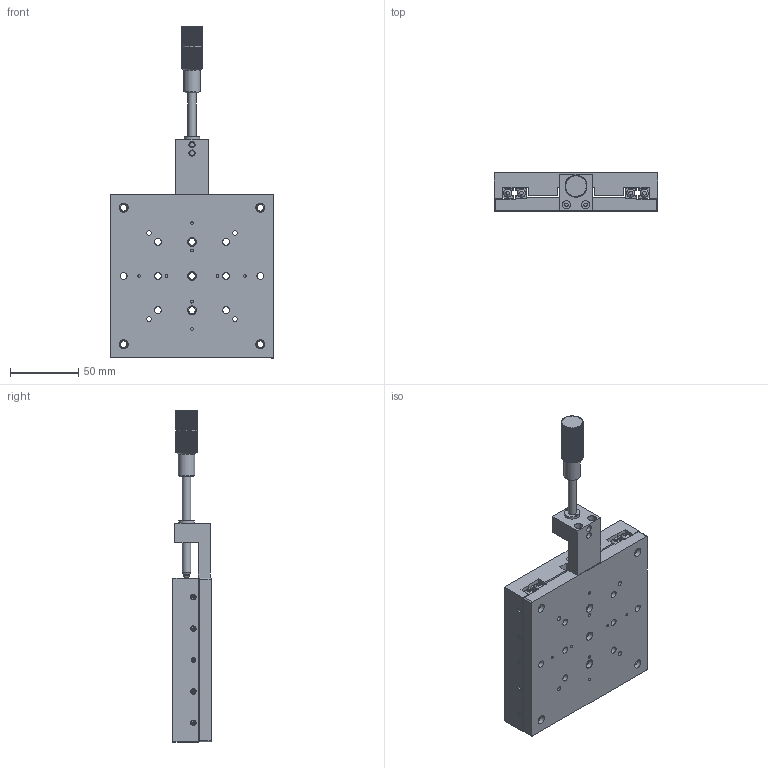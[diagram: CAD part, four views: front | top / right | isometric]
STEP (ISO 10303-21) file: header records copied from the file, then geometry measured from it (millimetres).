
FILE_DESCRIPTION (( 'STEP AP203' ), '1' );
FILE_NAME ('TCS120X-2A.step', '2017-01-10T09:16:19', ( '¦K¬P' ), ( '' ), 'SwSTEP 2.0', 'SolidWorks 2012', '' );
FILE_SCHEMA (( 'CONFIG_CONTROL_DESIGN' ));
Length unit declared in the file: millimetre
Products named in the file (1): TCS120X-2A
Bounding box: 120 x 28 x 243 mm (x, y, z)
Surface area: 103971.6 mm2 (no closed solid volume)
Topology: 0 solids, 29 shells, 538 faces, 1684 edges, 1161 vertices
Faces by surface type: plane 350, cylinder 166, cone 12, torus 9, sphere 1
Full cylindrical faces by diameter (mm): 1.7 x2, 2 x14, 2.5 x3, 3.3 x18, 4.5 x2, 5 x46, 6 x4, 6.5 x7, 9.5 x1, 11 x9, 11.5 x1, 12 x1
Entity records: 20222 total; most frequent: CARTESIAN_POINT 5727, DIRECTION 2743, ORIENTED_EDGE 2740, EDGE_CURVE 1522, VERTEX_POINT 1138, AXIS2_PLACEMENT_3D 972, EDGE_LOOP 937, VECTOR 799
